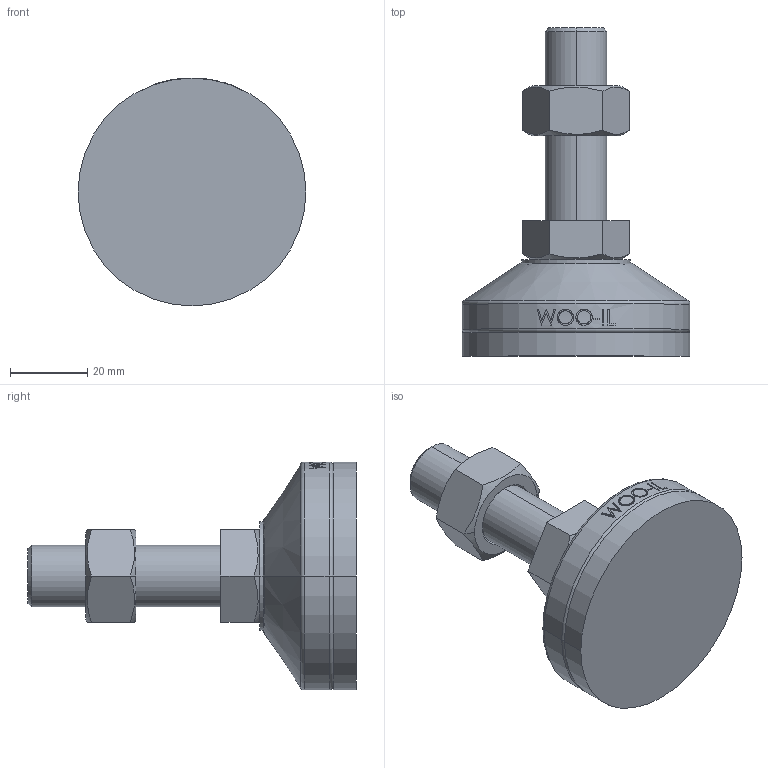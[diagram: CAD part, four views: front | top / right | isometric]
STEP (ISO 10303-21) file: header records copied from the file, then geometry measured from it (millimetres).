
FILE_DESCRIPTION (( 'STEP AP214' ), '1' );
FILE_NAME ('MFR59-M16-50.step', '2021-01-15T08:02:18', ( '' ), ( '' ), 'SwSTEP 2.0', 'SolidWorks 2019', '' );
FILE_SCHEMA (( 'AUTOMOTIVE_DESIGN' ));
Length unit declared in the file: millimetre
Products named in the file (2): MFR59-M16-50
Bounding box: 59 x 85 x 59 mm (x, y, z)
Volume: 73385.8 mm3; surface area: 20431.1 mm2
Topology: 4 solids, 4 shells, 103 faces, 235 edges, 150 vertices
Faces by surface type: plane 49, cylinder 18, bspline 16, cone 14, torus 6
Entity records: 4363 total; most frequent: CARTESIAN_POINT 2090, ORIENTED_EDGE 470, DIRECTION 417, EDGE_CURVE 235, AXIS2_PLACEMENT_3D 159, VERTEX_POINT 150, EDGE_LOOP 115, FACE_OUTER_BOUND 103
